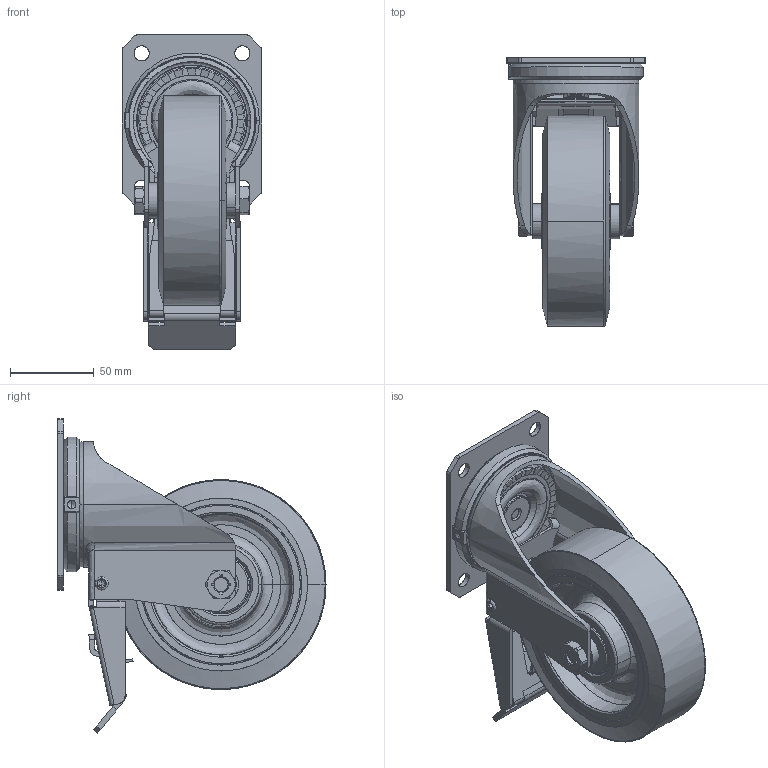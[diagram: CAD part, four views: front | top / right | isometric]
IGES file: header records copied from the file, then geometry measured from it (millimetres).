
Start section: SolidWorks IGES file using analytic representation for surfaces
Global section: file name: S:\Tyokansio\KULJETUSPYÖRÄT\LK\LS\IGES\401521_.igs; native system: SolidWorks 2014; preprocessor: SolidWorks 2014; author: markola; date: 150914.094302; units: millimetre
Bounding box: 83 x 159.67 x 187.2 mm (x, y, z)
Surface area: 160972.7 mm2 (no closed solid volume)
Topology: 0 solids, 0 shells, 770 faces, 8590 edges, 8581 vertices
Faces by surface type: bspline 505, revolution 265
